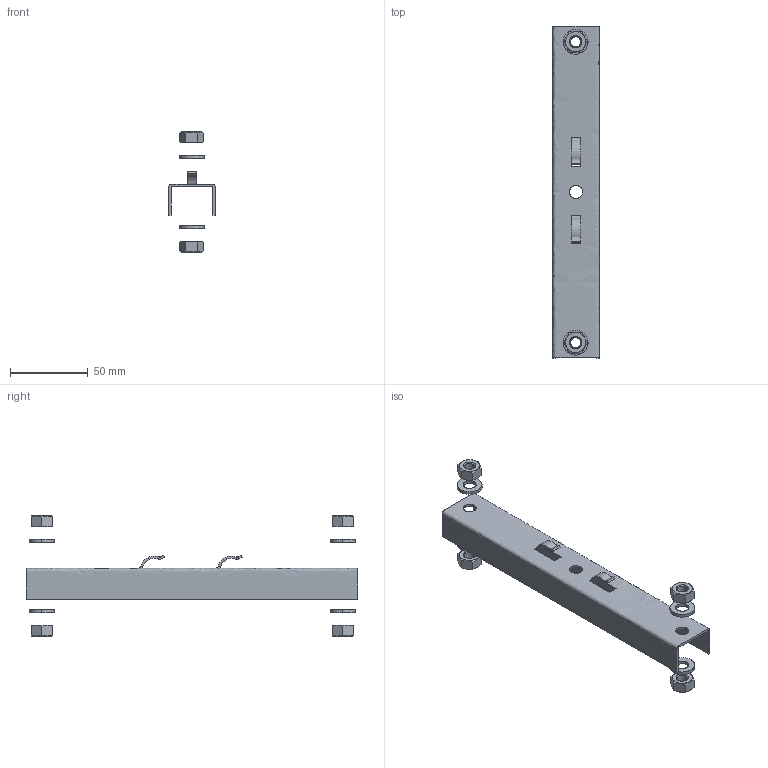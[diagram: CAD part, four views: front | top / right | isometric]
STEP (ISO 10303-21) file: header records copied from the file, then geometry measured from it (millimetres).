
FILE_DESCRIPTION(/* description */ (''),/* implementation_level */ '2;1');
FILE_NAME(/* name */ 'PZM150',/* time_stamp */ '2012-11-29T22:30:51+01:00',/* author */ (''),/* organization */ (''),/* preprocessor_version */ 'ST-DEVELOPER v10',/* originating_system */ '',/* authorisation */ '');
FILE_SCHEMA (('AUTOMOTIVE_DESIGN_CC2'));
Length unit declared in the file: millimetre
Products named in the file (1): 1
Bounding box: 30 x 214 x 77.4 mm (x, y, z)
Surface area: 33774.4 mm2 (no closed solid volume)
Topology: 0 solids, 112 shells, 143 faces, 578 edges, 520 vertices
Faces by surface type: bspline 92, plane 51
Entity records: 10860 total; most frequent: CARTESIAN_POINT 7000, ORIENTED_EDGE 636, EDGE_CURVE 574, VERTEX_POINT 512, B_SPLINE_CURVE_WITH_KNOTS 318, EDGE_LOOP 169, ADVANCED_FACE 143, FACE_OUTER_BOUND 143
